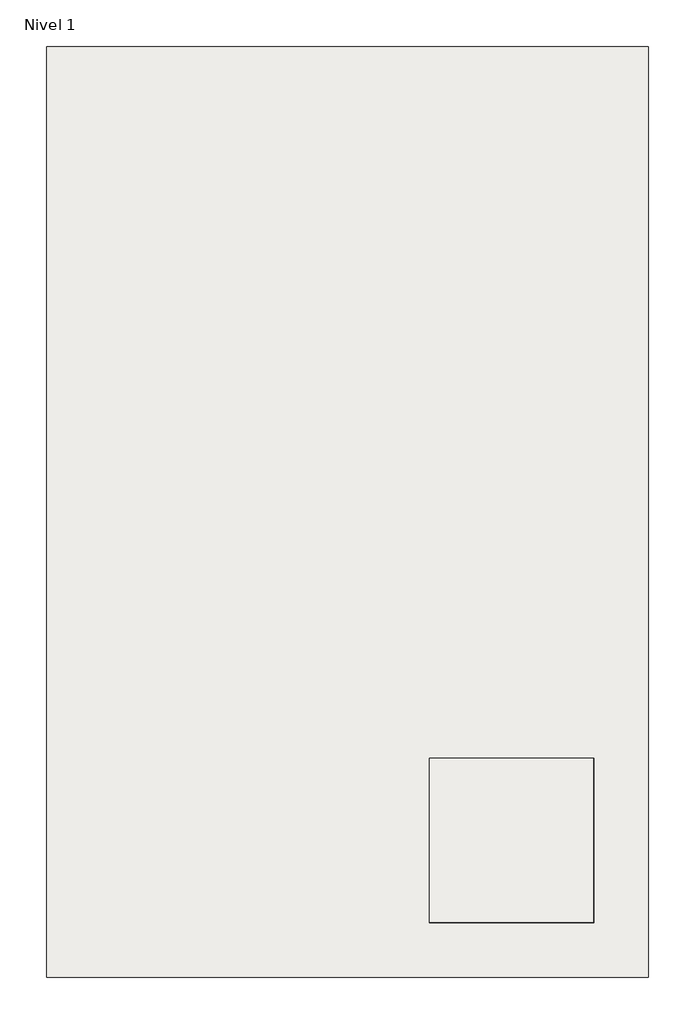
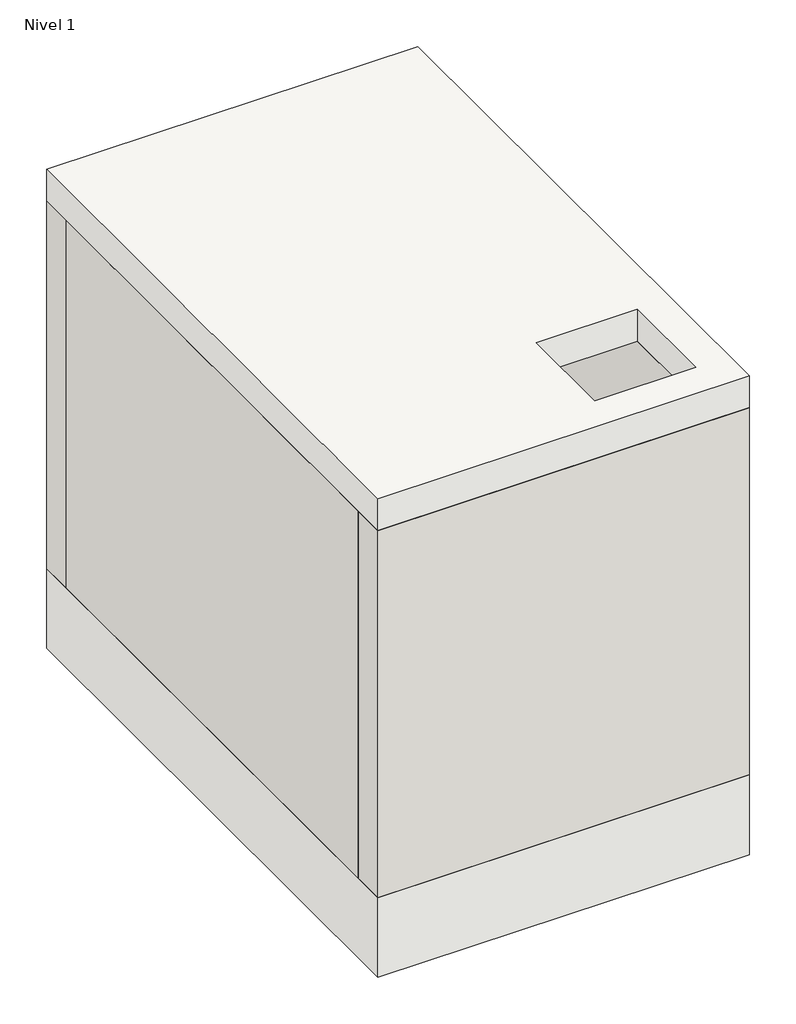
# One storey, part 1 of 3: 4 walls, 2 slabs.
"""IFC4 building model written with IfcOpenShell, lengths in millimetres."""

from ifc_helpers import new_model, si_unit, frame, origin, place, context, project, spatial, polyline, outline, extrude, faceted_brep, element, save

model = new_model("IFC4")

# Units and contexts
model_context = context("Model", 3, world=origin())
ifc_project = project(units=[si_unit("LENGTHUNIT", "METRE", prefix="MILLI")], contexts=[model_context])

# Site, building, storey
site = spatial("IfcSite", under=ifc_project)
building = spatial("IfcBuilding", under=site)
storey = spatial("IfcBuildingStorey", under=building, Name="Nivel 1", Elevation=0.0)

# Slabs
placement = place(None, origin())
element("IfcSlab", 1, ObjectType="ELC_Losa de Cimentacion e=50cm", at=placement, inside=storey, context=model_context, shape_type="SweptSolid", body=[
    extrude(outline(polyline([(9150.0, 14300.0), (9150.0, 10900.0), (6950.0, 10900.0), (6950.0, 14300.0), (9150.0, 14300.0)])), frame((0.0, 0.0, -3050.0), z_axis=(0.0, 0.0, 1.0), x_axis=(1.0, 0.0, 0.0)), (0.0, 0.0, 1.0), 500.0),
])
element("IfcSlab", 2, ObjectType="ELM_Losa Maciza e=20 cm", at=placement, inside=storey, context=model_context, shape_type="SweptSolid", body=[
    extrude(outline(polyline([(9150.0, 14300.0), (9150.0, 10900.0), (6950.0, 10900.0), (6950.0, 14300.0), (9150.0, 14300.0)]), holes=[polyline([(8350.0, 11100.0), (8950.0, 11100.0), (8950.0, 11700.0), (8350.0, 11700.0), (8350.0, 11100.0)])]), frame((0.0, 0.0, -250.0), z_axis=(0.0, 0.0, 1.0), x_axis=(1.0, 0.0, 0.0)), (0.0, 0.0, 1.0), 200.0),
])

# Walls
element("IfcWall", 3, ObjectType="WCA_Muro Armado 20 cm", at=placement, inside=storey, context=model_context, shape_type="Brep", body=[
    faceted_brep([(6950.0, 10900.0, -2550.0), (9150.0, 10900.0, -2550.0), (9150.0, 10900.0, -250.0), (6950.0, 10900.0, -250.0), (6950.0, 11100.0, -2550.0), (6950.0, 11100.0, -250.0), (7150.0, 11100.0, -250.0), (8950.0, 11100.0, -250.0), (9150.0, 11100.0, -250.0), (9150.0, 11100.0, -2550.0), (8950.0, 11100.0, -2550.0), (7150.0, 11100.0, -2550.0)], [[[0, 1, 2, 3]], [[4, 5, 6, 7, 8, 9, 10, 11]], [[1, 0, 4, 11, 10, 9]], [[3, 2, 8, 7, 6, 5]], [[2, 1, 9, 8]], [[0, 3, 5, 4]]]),
])
element("IfcWall", 4, ObjectType="WCA_Muro Armado 20 cm", at=placement, inside=storey, context=model_context, shape_type="Brep", body=[
    faceted_brep([(9150.0, 11100.0, -2550.0), (9150.0, 14300.0, -2550.0), (9150.0, 14300.0, -250.0), (9150.0, 11100.0, -250.0), (8950.0, 11100.0, -2550.0), (8950.0, 11100.0, -250.0), (8950.0, 14100.0, -250.0), (8950.0, 14300.0, -250.0), (8950.0, 14300.0, -2550.0), (8950.0, 14100.0, -2550.0)], [[[0, 1, 2, 3]], [[4, 5, 6, 7, 8, 9]], [[1, 0, 4, 9, 8]], [[3, 2, 7, 6, 5]], [[0, 3, 5, 4]], [[2, 1, 8, 7]]]),
])
element("IfcWall", 5, ObjectType="WCA_Muro Armado 20 cm", at=placement, inside=storey, context=model_context, shape_type="Brep", body=[
    faceted_brep([(8950.0, 14300.0, -2550.0), (6950.0, 14300.0, -2550.0), (6950.0, 14300.0, -250.0), (8950.0, 14300.0, -250.0), (8950.0, 14100.0, -2550.0), (8950.0, 14100.0, -250.0), (7150.0, 14100.0, -250.0), (6950.0, 14100.0, -250.0), (6950.0, 14100.0, -2550.0), (7150.0, 14100.0, -2550.0)], [[[0, 1, 2, 3]], [[4, 5, 6, 7, 8, 9]], [[1, 0, 4, 9, 8]], [[3, 2, 7, 6, 5]], [[0, 3, 5, 4]], [[2, 1, 8, 7]]]),
])
element("IfcWall", 6, ObjectType="WCA_Muro Armado 20 cm", at=placement, inside=storey, context=model_context, shape_type="SweptSolid", body=[
    extrude(outline(polyline([(6950.0, 11100.0), (6950.0, 14100.0), (7150.0, 14100.0), (7150.0, 11100.0), (6950.0, 11100.0)])), frame((0.0, 0.0, -2550.0), z_axis=(0.0, 0.0, 1.0), x_axis=(1.0, 0.0, 0.0)), (0.0, 0.0, 1.0), 2300.0),
])

save(model, "model.ifc")
